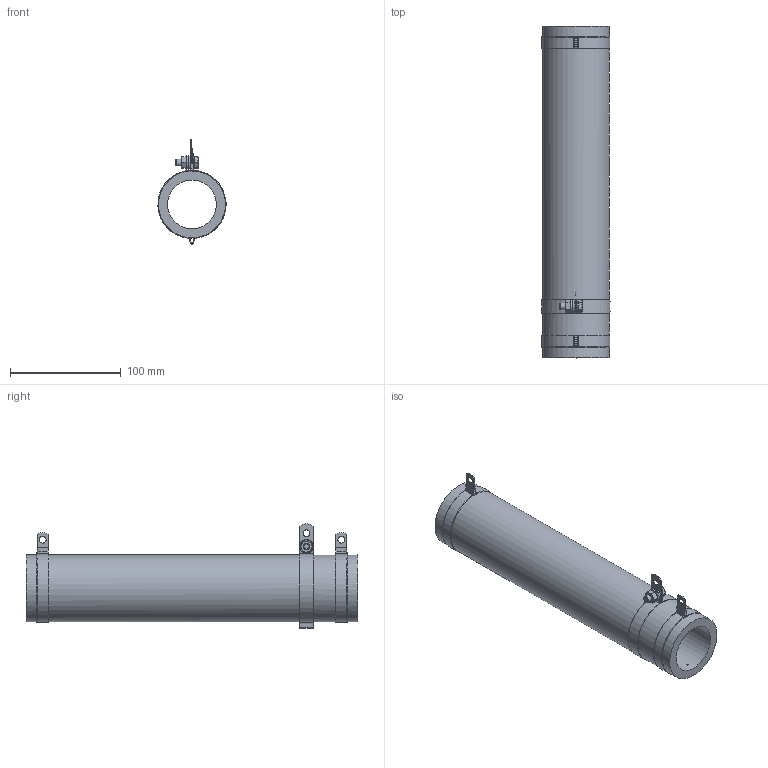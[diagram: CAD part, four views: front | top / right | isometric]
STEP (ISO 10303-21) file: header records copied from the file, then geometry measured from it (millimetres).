
FILE_DESCRIPTION(/* description */ (''),/* implementation_level */ '2;1');
FILE_NAME(/* name */ 'C:\_Vault\Dati\CATALOGO\RCA-RSA\R 25-1000\3D\RCAR 600.stp',/* time_stamp */ '2014-03-18T17:05:21+01:00',/* author */ ('stefano'),/* organization */ (''),/* preprocessor_version */ 'ST-DEVELOPER v15.2',/* originating_system */ 'Autodesk Inventor 2014',/* authorisation */ '');
FILE_SCHEMA (('AUTOMOTIVE_DESIGN { 1 0 10303 214 3 1 1 }'));
Length unit declared in the file: millimetre
Products named in the file (1): RCAR 600
Bounding box: 61.53 x 300 x 94.11 mm (x, y, z)
Volume: 411446 mm3; surface area: 105488.5 mm2
Topology: 1 solids, 9 shells, 801 faces, 1905 edges, 1254 vertices
Faces by surface type: plane 567, cylinder 190, cone 20, torus 20, bspline 4
Full cylindrical faces by diameter (mm): 4.2 x1, 6 x2, 6.2 x3, 6.3 x2, 6.4 x1, 8.88 x1, 12 x1, 12.5 x1, 44 x1, 60.5 x3
Entity records: 24224 total; most frequent: CARTESIAN_POINT 4490, DIRECTION 4026, ORIENTED_EDGE 3754, EDGE_CURVE 1877, AXIS2_PLACEMENT_3D 1453, VERTEX_POINT 1245, LINE 1120, VECTOR 1120
